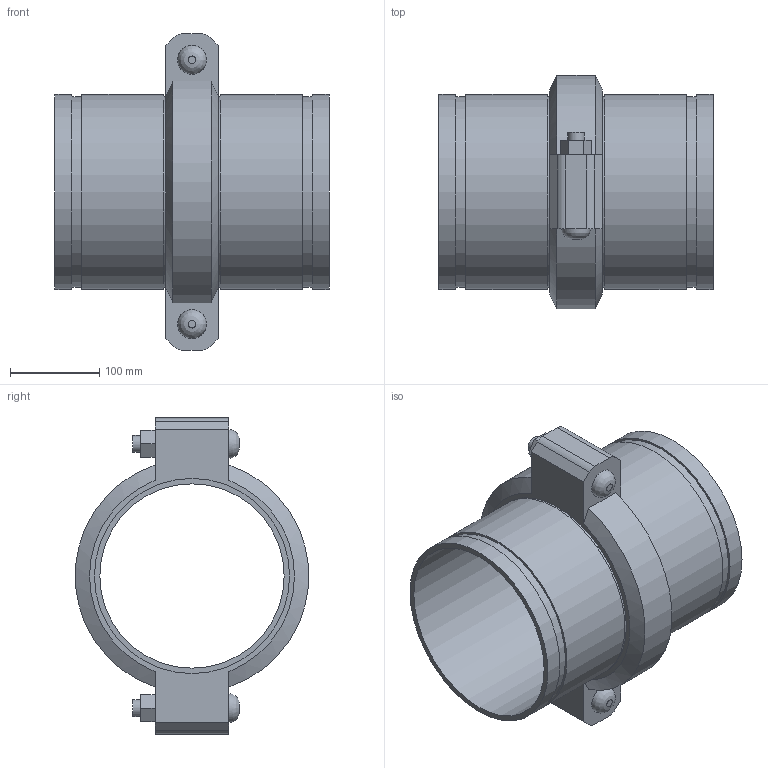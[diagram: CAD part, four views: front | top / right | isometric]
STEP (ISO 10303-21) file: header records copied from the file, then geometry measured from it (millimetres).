
FILE_DESCRIPTION(/* description */ ('VIC SS EXPANSION JOINT 1 COUPLING NEUTRAL STYLE 155P (OGS) (POTABLE WATER) ','CAx-IF Rec.Pracs.---Representation and Presentation of Product Manufacturing Information (PMI)---4.0---2014-10-13'),/* implementation_level */ '2;1');
FILE_NAME(/* name */ 'C:\Users\kkamble\AppData\Roaming\Autodesk\ApplicationPlugins\Victaulic.Temp\A585\Victaulic_SS_Expansion Joint_Neutral_1 Coupling_Style 155P (OGS)-Potable Water_1 Coup_Neut_8 (200).stp',/* time_stamp */ '2021-07-16T16:26:04+06:00',/* author */ ('kkamble'),/* organization */ ('Victaulic'),/* preprocessor_version */ 'ST-DEVELOPER v17.2',/* originating_system */ 'Autodesk Inventor 2019',/* authorisation */ '');
FILE_SCHEMA (('AP242_MANAGED_MODEL_BASED_3D_ENGINEERING_MIM_LF { 1 0 10303 442 1 1 4 }'));
Length unit declared in the file: inch
Products named in the file (3): 155P-08.0; Nipple-08.0; 075-08.0
Assembly tree (3 placements, depth 2):
  155P-08.0
    Nipple-08.0  x2
    075-08.0
Bounding box: 308.1 x 261.72 x 354.84 mm (x, y, z)
Volume: 2536505 mm3; surface area: 606760.1 mm2
Topology: 3 solids, 5 shells, 81 faces, 193 edges, 138 vertices
Faces by surface type: plane 48, cylinder 27, cone 4, bspline 2
Full cylindrical faces by diameter (mm): 19.05 x4, 21.209 x2, 206.985 x2, 212.725 x1, 214.401 x4, 219.075 x8
Entity records: 2292 total; most frequent: CARTESIAN_POINT 420, DIRECTION 369, ORIENTED_EDGE 326, EDGE_CURVE 163, AXIS2_PLACEMENT_3D 141, VERTEX_POINT 114, EDGE_LOOP 89, LINE 87
